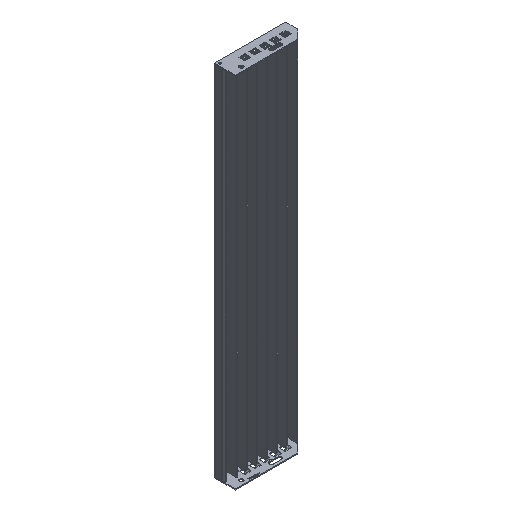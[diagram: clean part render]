
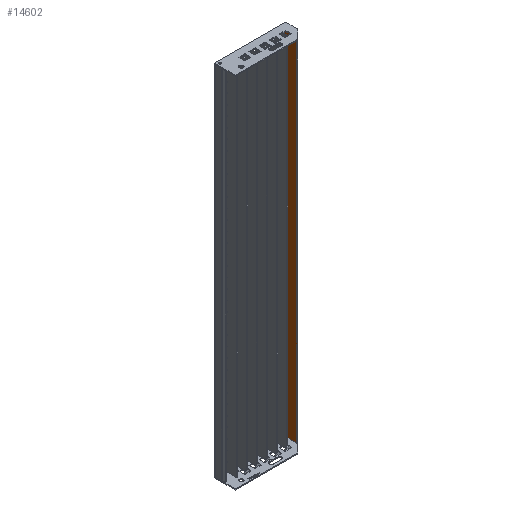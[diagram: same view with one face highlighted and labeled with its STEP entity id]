
A CAD part, isometric view. The second image highlights one B-rep face of the part: STEP entity #14602.
In plain terms, the highlighted planar face has unit normal (-1, 0, 0).
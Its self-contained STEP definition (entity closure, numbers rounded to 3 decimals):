
#2377=FACE_OUTER_BOUND('',#3600,.T.);
#3600=EDGE_LOOP('',(#13195,#13196,#13197,#13198));
#4906=LINE('',#27795,#6218);
#4907=LINE('',#27797,#6219);
#4908=LINE('',#27799,#6220);
#4909=LINE('',#27800,#6221);
#6218=VECTOR('',#20118,10.);
#6219=VECTOR('',#20119,10.);
#6220=VECTOR('',#20120,10.);
#6221=VECTOR('',#20121,10.);
#7559=VERTEX_POINT('',#27793);
#7560=VERTEX_POINT('',#27794);
#7561=VERTEX_POINT('',#27796);
#7562=VERTEX_POINT('',#27798);
#9439=EDGE_CURVE('',#7559,#7560,#4906,.T.);
#9440=EDGE_CURVE('',#7561,#7560,#4907,.T.);
#9441=EDGE_CURVE('',#7561,#7562,#4908,.T.);
#9442=EDGE_CURVE('',#7562,#7559,#4909,.T.);
#13195=ORIENTED_EDGE('',*,*,#9439,.T.);
#13196=ORIENTED_EDGE('',*,*,#9440,.F.);
#13197=ORIENTED_EDGE('',*,*,#9441,.T.);
#13198=ORIENTED_EDGE('',*,*,#9442,.T.);
#13657=PLANE('',#16117);
#14602=ADVANCED_FACE('',(#2377),#13657,.T.);
#16117=AXIS2_PLACEMENT_3D('',#27792,#20116,#20117);
#20116=DIRECTION('center_axis',(-1.,0.,0.));
#20117=DIRECTION('ref_axis',(0.,0.,1.));
#20118=DIRECTION('',(0.,0.,-1.));
#20119=DIRECTION('',(0.,1.,0.));
#20120=DIRECTION('',(0.,0.,1.));
#20121=DIRECTION('',(0.,1.,0.));
#27792=CARTESIAN_POINT('Origin',(-3.,0.,0.));
#27793=CARTESIAN_POINT('',(-3.,1194.,0.));
#27794=CARTESIAN_POINT('',(-3.,1194.,-40.));
#27795=CARTESIAN_POINT('',(-3.,1194.,-40.));
#27796=CARTESIAN_POINT('',(-3.,0.,-40.));
#27797=CARTESIAN_POINT('',(-3.,0.,-40.));
#27798=CARTESIAN_POINT('',(-3.,0.,0.));
#27799=CARTESIAN_POINT('',(-3.,0.,-40.));
#27800=CARTESIAN_POINT('',(-3.,0.,0.));
